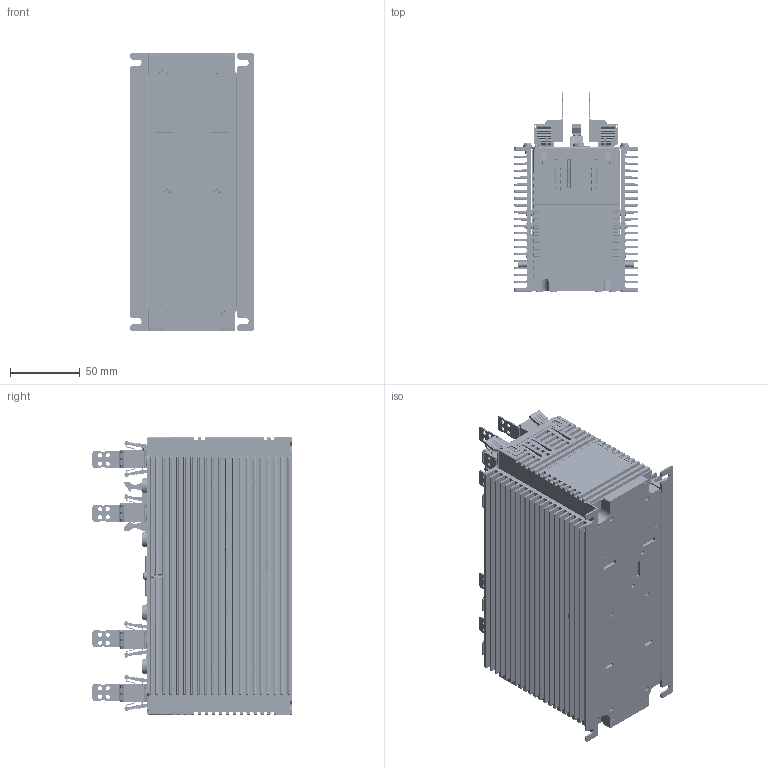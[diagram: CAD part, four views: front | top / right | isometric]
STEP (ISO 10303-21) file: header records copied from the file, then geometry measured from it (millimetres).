
FILE_DESCRIPTION (( 'STEP AP203' ), '1' );
FILE_NAME ('J-CVM-3僐僱僋僞偁傝_WEB.STEP', '2017-05-17T09:21:21', ( 'a' ), ( 'Microsoft' ), 'SwSTEP 2.0', 'SolidWorks 2016', '' );
FILE_SCHEMA (( 'CONFIG_CONTROL_DESIGN' ));
Products named in the file (4): 721-2102_037-000_web_721-2102_037-000; 734-328_web_734-328; J-CVM-3僐僱僋僞偁傝_WEB; JCVM(基本設計3A)_WEB
Assembly tree (17 placements, depth 2):
  J-CVM-3僐僱僋僞偁傝_WEB
    JCVM(基本設計3A)_WEB
    721-2102_037-000_web_721-2102_037-000  x8
    734-328_web_734-328  x8
Bounding box: 88.9 x 143.25 x 200 mm (x, y, z)
Volume: 1509725.3 mm3; surface area: 360496.6 mm2
Topology: 17 solids, 43 shells, 10023 faces, 27702 edges, 18291 vertices
Faces by surface type: plane 6899, cylinder 1838, bspline 1148, cone 120, sphere 10, torus 8
Entity records: 263658 total; most frequent: CARTESIAN_POINT 89492, ORIENTED_EDGE 39132, DIRECTION 30146, EDGE_CURVE 19566, LINE 14948, VECTOR 14948, VERTEX_POINT 12901, EDGE_LOOP 7831
